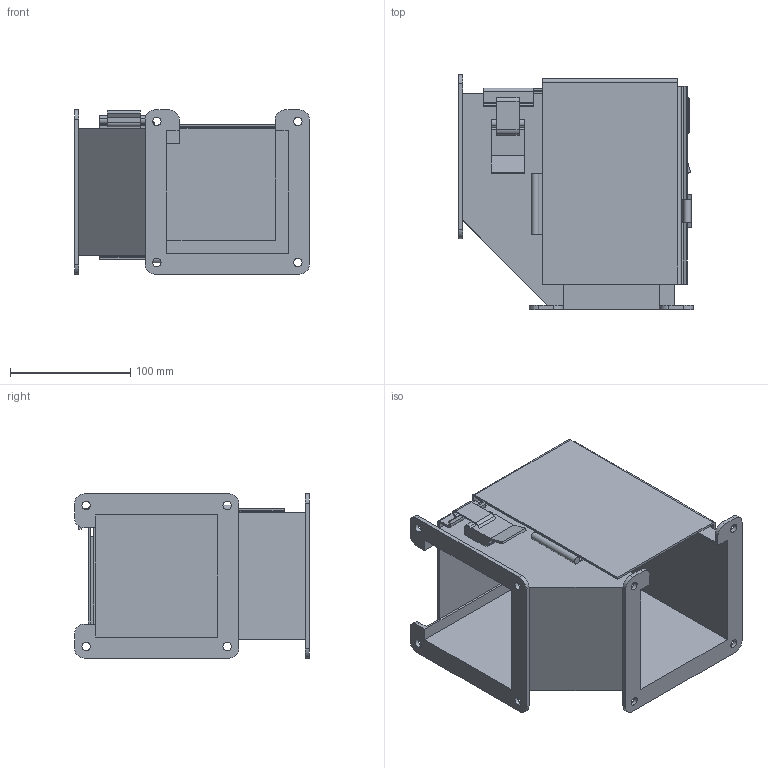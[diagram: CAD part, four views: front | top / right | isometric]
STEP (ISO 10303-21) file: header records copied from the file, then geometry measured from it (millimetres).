
FILE_DESCRIPTION (( 'STEP AP203' ), '1' );
FILE_NAME ('f44le9kt.stp', '2014-02-27T13:40:38', ( 'User' ), ( 'Pentair Inc' ), 'SwSTEP 2.0', 'SolidWorks 2010', '' );
FILE_SCHEMA (( 'CONFIG_CONTROL_DESIGN' ));
Length unit declared in the file: inch
Products named in the file (1): f44le9kt
Bounding box: 195.33 x 195.33 x 136.65 mm (x, y, z)
Volume: 307483 mm3; surface area: 289638.1 mm2
Topology: 1 solids, 1 shells, 213 faces, 607 edges, 402 vertices
Faces by surface type: plane 141, cylinder 72
Entity records: 7036 total; most frequent: CARTESIAN_POINT 1223, ORIENTED_EDGE 1214, DIRECTION 1179, EDGE_CURVE 607, VECTOR 463, LINE 463, VERTEX_POINT 402, AXIS2_PLACEMENT_3D 358
